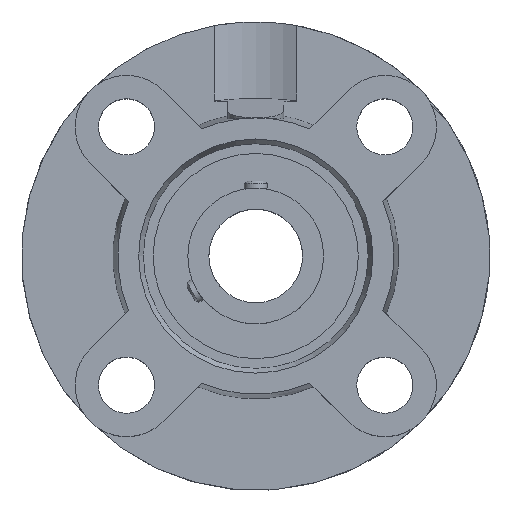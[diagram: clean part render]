
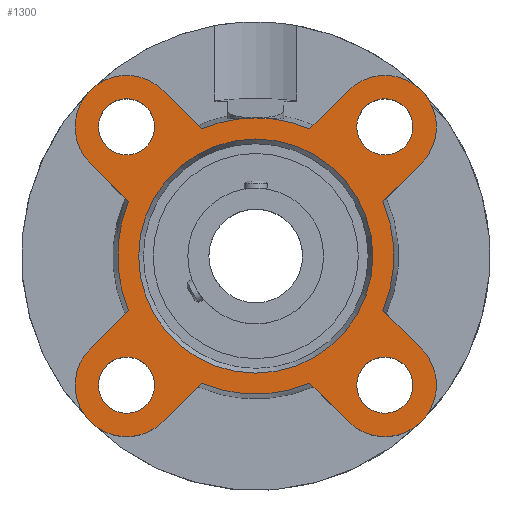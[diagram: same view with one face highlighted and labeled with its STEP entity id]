
A CAD part, top view. The second image highlights one B-rep face of the part: STEP entity #1300.
In plain terms, the highlighted planar face has unit normal (0, 0, 1).
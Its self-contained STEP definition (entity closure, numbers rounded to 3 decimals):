
#123=CARTESIAN_POINT('',(-21.577,-27.577,13.5));
#124=VERTEX_POINT('',#123);
#125=CARTESIAN_POINT('',(-27.577,-27.577,13.5));
#126=DIRECTION('',(0.0,0.0,-1.0));
#127=DIRECTION('',(1.0,0.0,0.0));
#128=AXIS2_PLACEMENT_3D('',#125,#126,#127);
#129=CIRCLE('',#128,6.);
#130=EDGE_CURVE('',#124,#124,#129,.T.);
#151=CARTESIAN_POINT('',(-21.577,27.577,13.5));
#152=VERTEX_POINT('',#151);
#153=CARTESIAN_POINT('',(-27.577,27.577,13.5));
#154=DIRECTION('',(0.0,0.0,-1.0));
#155=DIRECTION('',(1.0,0.0,0.0));
#156=AXIS2_PLACEMENT_3D('',#153,#154,#155);
#157=CIRCLE('',#156,6.);
#158=EDGE_CURVE('',#152,#152,#157,.T.);
#179=CARTESIAN_POINT('',(33.577,27.577,13.5));
#180=VERTEX_POINT('',#179);
#181=CARTESIAN_POINT('',(27.577,27.577,13.5));
#182=DIRECTION('',(0.0,0.0,-1.0));
#183=DIRECTION('',(1.0,0.0,0.0));
#184=AXIS2_PLACEMENT_3D('',#181,#182,#183);
#185=CIRCLE('',#184,6.);
#186=EDGE_CURVE('',#180,#180,#185,.T.);
#207=CARTESIAN_POINT('',(33.577,-27.577,13.5));
#208=VERTEX_POINT('',#207);
#209=CARTESIAN_POINT('',(27.577,-27.577,13.5));
#210=DIRECTION('',(0.0,0.0,-1.0));
#211=DIRECTION('',(1.0,0.0,0.0));
#212=AXIS2_PLACEMENT_3D('',#209,#210,#211);
#213=CIRCLE('',#212,6.);
#214=EDGE_CURVE('',#208,#208,#213,.T.);
#312=CARTESIAN_POINT('',(0.0,25.0,13.5));
#313=VERTEX_POINT('',#312);
#314=CARTESIAN_POINT('',(0.0,0.,13.5));
#315=DIRECTION('',(0.0,0.0,-1.0));
#316=DIRECTION('',(0.0,1.0,0.0));
#317=AXIS2_PLACEMENT_3D('',#314,#315,#316);
#318=CIRCLE('',#317,25.);
#319=EDGE_CURVE('',#313,#313,#318,.T.);
#601=CARTESIAN_POINT('',(0.,29.5,13.5));
#602=VERTEX_POINT('',#601);
#756=CARTESIAN_POINT('',(-11.577,27.133,13.5));
#757=VERTEX_POINT('',#756);
#771=CARTESIAN_POINT('',(0.0,0.,13.5));
#772=DIRECTION('',(0.0,0.0,1.0));
#773=DIRECTION('',(0.0,-1.0,0.0));
#774=AXIS2_PLACEMENT_3D('',#771,#772,#773);
#775=CIRCLE('',#774,29.5);
#776=EDGE_CURVE('',#602,#757,#775,.T.);
#786=CARTESIAN_POINT('',(-11.577,-27.133,13.5));
#787=VERTEX_POINT('',#786);
#803=CARTESIAN_POINT('',(-19.799,-35.355,13.5));
#804=VERTEX_POINT('',#803);
#805=CARTESIAN_POINT('',(-11.577,-27.133,13.5));
#806=DIRECTION('',(-0.707,-0.707,0.));
#807=VECTOR('',#806,11.628);
#808=LINE('',#805,#807);
#809=EDGE_CURVE('',#787,#804,#808,.T.);
#833=CARTESIAN_POINT('',(-27.133,11.577,13.5));
#834=VERTEX_POINT('',#833);
#850=CARTESIAN_POINT('',(-35.355,19.799,13.5));
#851=VERTEX_POINT('',#850);
#852=CARTESIAN_POINT('',(-27.133,11.577,13.5));
#853=DIRECTION('',(-0.707,0.707,0.));
#854=VECTOR('',#853,11.628);
#855=LINE('',#852,#854);
#856=EDGE_CURVE('',#834,#851,#855,.T.);
#880=CARTESIAN_POINT('',(27.133,-11.577,13.5));
#881=VERTEX_POINT('',#880);
#897=CARTESIAN_POINT('',(35.355,-19.799,13.5));
#898=VERTEX_POINT('',#897);
#899=CARTESIAN_POINT('',(27.133,-11.577,13.5));
#900=DIRECTION('',(0.707,-0.707,0.));
#901=VECTOR('',#900,11.628);
#902=LINE('',#899,#901);
#903=EDGE_CURVE('',#881,#898,#902,.T.);
#927=CARTESIAN_POINT('',(11.577,27.133,13.5));
#928=VERTEX_POINT('',#927);
#942=CARTESIAN_POINT('',(19.799,35.355,13.5));
#943=VERTEX_POINT('',#942);
#944=CARTESIAN_POINT('',(11.577,27.133,13.5));
#945=DIRECTION('',(0.707,0.707,0.));
#946=VECTOR('',#945,11.628);
#947=LINE('',#944,#946);
#948=EDGE_CURVE('',#928,#943,#947,.T.);
#967=CARTESIAN_POINT('',(27.133,11.577,13.5));
#968=VERTEX_POINT('',#967);
#990=CARTESIAN_POINT('',(35.355,19.799,13.5));
#991=VERTEX_POINT('',#990);
#998=CARTESIAN_POINT('',(35.355,19.799,13.5));
#999=DIRECTION('',(-0.707,-0.707,0.));
#1000=VECTOR('',#999,11.628);
#1001=LINE('',#998,#1000);
#1002=EDGE_CURVE('',#991,#968,#1001,.T.);
#1012=CARTESIAN_POINT('',(-35.355,-19.799,13.5));
#1013=VERTEX_POINT('',#1012);
#1014=CARTESIAN_POINT('',(-27.577,-27.577,13.5));
#1015=DIRECTION('',(0.0,0.0,-1.0));
#1016=DIRECTION('',(-0.707,0.707,0.0));
#1017=AXIS2_PLACEMENT_3D('',#1014,#1015,#1016);
#1018=CIRCLE('',#1017,11.);
#1019=EDGE_CURVE('',#804,#1013,#1018,.T.);
#1054=CARTESIAN_POINT('',(-27.133,-11.577,13.5));
#1055=VERTEX_POINT('',#1054);
#1076=CARTESIAN_POINT('',(-35.355,-19.799,13.5));
#1077=DIRECTION('',(0.707,0.707,0.));
#1078=VECTOR('',#1077,11.628);
#1079=LINE('',#1076,#1078);
#1080=EDGE_CURVE('',#1013,#1055,#1079,.T.);
#1090=CARTESIAN_POINT('',(-19.799,35.355,13.5));
#1091=VERTEX_POINT('',#1090);
#1092=CARTESIAN_POINT('',(-27.577,27.577,13.5));
#1093=DIRECTION('',(0.0,0.0,-1.0));
#1094=DIRECTION('',(0.707,0.707,0.0));
#1095=AXIS2_PLACEMENT_3D('',#1092,#1093,#1094);
#1096=CIRCLE('',#1095,11.);
#1097=EDGE_CURVE('',#851,#1091,#1096,.T.);
#1125=CARTESIAN_POINT('',(-19.799,35.355,13.5));
#1126=DIRECTION('',(0.707,-0.707,0.));
#1127=VECTOR('',#1126,11.628);
#1128=LINE('',#1125,#1127);
#1129=EDGE_CURVE('',#1091,#757,#1128,.T.);
#1139=CARTESIAN_POINT('',(19.799,-35.355,13.5));
#1140=VERTEX_POINT('',#1139);
#1141=CARTESIAN_POINT('',(27.577,-27.577,13.5));
#1142=DIRECTION('',(0.0,0.0,-1.0));
#1143=DIRECTION('',(-0.707,-0.707,0.0));
#1144=AXIS2_PLACEMENT_3D('',#1141,#1142,#1143);
#1145=CIRCLE('',#1144,11.);
#1146=EDGE_CURVE('',#898,#1140,#1145,.T.);
#1181=CARTESIAN_POINT('',(11.577,-27.133,13.5));
#1182=VERTEX_POINT('',#1181);
#1203=CARTESIAN_POINT('',(19.799,-35.355,13.5));
#1204=DIRECTION('',(-0.707,0.707,0.));
#1205=VECTOR('',#1204,11.628);
#1206=LINE('',#1203,#1205);
#1207=EDGE_CURVE('',#1140,#1182,#1206,.T.);
#1217=CARTESIAN_POINT('',(27.577,27.577,13.5));
#1218=DIRECTION('',(0.0,0.0,-1.0));
#1219=DIRECTION('',(0.707,-0.707,0.0));
#1220=AXIS2_PLACEMENT_3D('',#1217,#1218,#1219);
#1221=CIRCLE('',#1220,11.);
#1222=EDGE_CURVE('',#943,#991,#1221,.T.);
#1237=CARTESIAN_POINT('',(0.0,-14.75,13.5));
#1238=DIRECTION('',(0.0,0.0,1.0));
#1239=DIRECTION('',(1.0,0.0,0.0));
#1240=AXIS2_PLACEMENT_3D('',#1237,#1238,#1239);
#1241=PLANE('',#1240);
#1242=CARTESIAN_POINT('',(0.0,0.,13.5));
#1243=DIRECTION('',(0.0,0.0,1.0));
#1244=DIRECTION('',(0.0,-1.0,0.0));
#1245=AXIS2_PLACEMENT_3D('',#1242,#1243,#1244);
#1246=CIRCLE('',#1245,29.5);
#1247=EDGE_CURVE('',#787,#1182,#1246,.T.);
#1248=ORIENTED_EDGE('',*,*,#1247,.T.);
#1249=ORIENTED_EDGE('',*,*,#1207,.F.);
#1250=ORIENTED_EDGE('',*,*,#1146,.F.);
#1251=ORIENTED_EDGE('',*,*,#903,.F.);
#1252=CARTESIAN_POINT('',(0.0,0.,13.5));
#1253=DIRECTION('',(0.0,0.0,1.0));
#1254=DIRECTION('',(0.0,-1.0,0.0));
#1255=AXIS2_PLACEMENT_3D('',#1252,#1253,#1254);
#1256=CIRCLE('',#1255,29.5);
#1257=EDGE_CURVE('',#881,#968,#1256,.T.);
#1258=ORIENTED_EDGE('',*,*,#1257,.T.);
#1259=ORIENTED_EDGE('',*,*,#1002,.F.);
#1260=ORIENTED_EDGE('',*,*,#1222,.F.);
#1261=ORIENTED_EDGE('',*,*,#948,.F.);
#1262=CARTESIAN_POINT('',(0.0,0.,13.5));
#1263=DIRECTION('',(0.0,0.0,1.0));
#1264=DIRECTION('',(0.0,-1.0,0.0));
#1265=AXIS2_PLACEMENT_3D('',#1262,#1263,#1264);
#1266=CIRCLE('',#1265,29.5);
#1267=EDGE_CURVE('',#928,#602,#1266,.T.);
#1268=ORIENTED_EDGE('',*,*,#1267,.T.);
#1269=ORIENTED_EDGE('',*,*,#776,.T.);
#1270=ORIENTED_EDGE('',*,*,#1129,.F.);
#1271=ORIENTED_EDGE('',*,*,#1097,.F.);
#1272=ORIENTED_EDGE('',*,*,#856,.F.);
#1273=CARTESIAN_POINT('',(0.0,0.,13.5));
#1274=DIRECTION('',(0.0,0.0,1.0));
#1275=DIRECTION('',(0.0,-1.0,0.0));
#1276=AXIS2_PLACEMENT_3D('',#1273,#1274,#1275);
#1277=CIRCLE('',#1276,29.5);
#1278=EDGE_CURVE('',#834,#1055,#1277,.T.);
#1279=ORIENTED_EDGE('',*,*,#1278,.T.);
#1280=ORIENTED_EDGE('',*,*,#1080,.F.);
#1281=ORIENTED_EDGE('',*,*,#1019,.F.);
#1282=ORIENTED_EDGE('',*,*,#809,.F.);
#1283=EDGE_LOOP('',(#1248,#1249,#1250,#1251,#1258,#1259,#1260,#1261,#1268,#1269,#1270,#1271,#1272,#1279,#1280,#1281,#1282));
#1284=FACE_OUTER_BOUND('',#1283,.T.);
#1285=ORIENTED_EDGE('',*,*,#130,.T.);
#1286=EDGE_LOOP('',(#1285));
#1287=FACE_BOUND('',#1286,.T.);
#1288=ORIENTED_EDGE('',*,*,#158,.T.);
#1289=EDGE_LOOP('',(#1288));
#1290=FACE_BOUND('',#1289,.T.);
#1291=ORIENTED_EDGE('',*,*,#186,.T.);
#1292=EDGE_LOOP('',(#1291));
#1293=FACE_BOUND('',#1292,.T.);
#1294=ORIENTED_EDGE('',*,*,#214,.T.);
#1295=EDGE_LOOP('',(#1294));
#1296=FACE_BOUND('',#1295,.T.);
#1297=ORIENTED_EDGE('',*,*,#319,.T.);
#1298=EDGE_LOOP('',(#1297));
#1299=FACE_BOUND('',#1298,.T.);
#1300=ADVANCED_FACE('',(#1284,#1287,#1290,#1293,#1296,#1299),#1241,.T.);
